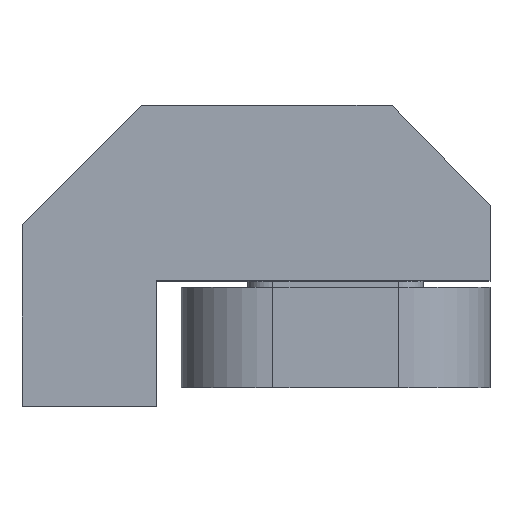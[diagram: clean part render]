
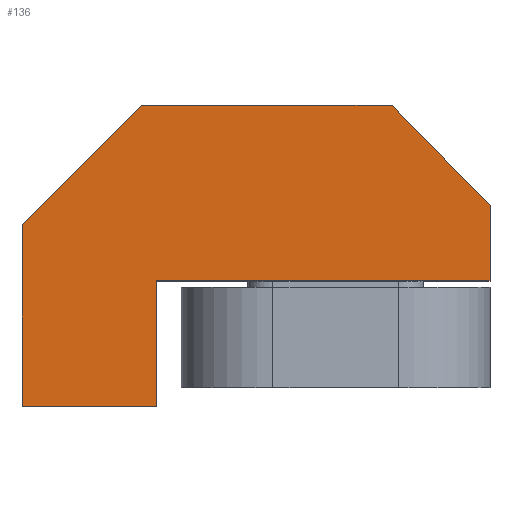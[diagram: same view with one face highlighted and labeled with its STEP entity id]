
A CAD part, top view. The second image highlights one B-rep face of the part: STEP entity #136.
In plain terms, the highlighted planar face has unit normal (0, 0, 1).
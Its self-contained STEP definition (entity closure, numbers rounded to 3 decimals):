
#136=ADVANCED_FACE('',(#223),#224,.T.);
#223=FACE_OUTER_BOUND('',#311,.T.);
#224=PLANE('',#312);
#311=EDGE_LOOP('',(#605,#606,#607,#608,#609,#610,#611,#612));
#312=AXIS2_PLACEMENT_3D('',#613,#614,#615);
#605=ORIENTED_EDGE('',*,*,#693,.F.);
#606=ORIENTED_EDGE('',*,*,#715,.F.);
#607=ORIENTED_EDGE('',*,*,#712,.F.);
#608=ORIENTED_EDGE('',*,*,#709,.F.);
#609=ORIENTED_EDGE('',*,*,#706,.F.);
#610=ORIENTED_EDGE('',*,*,#703,.F.);
#611=ORIENTED_EDGE('',*,*,#700,.F.);
#612=ORIENTED_EDGE('',*,*,#697,.F.);
#613=CARTESIAN_POINT('',(-85.115,129.992,93.0));
#614=DIRECTION('',(0.0,0.0,1.0));
#615=DIRECTION('',(1.0,0.0,0.0));
#693=EDGE_CURVE('',#827,#828,#829,.T.);
#697=EDGE_CURVE('',#828,#835,#836,.T.);
#700=EDGE_CURVE('',#835,#840,#841,.T.);
#703=EDGE_CURVE('',#840,#845,#846,.T.);
#706=EDGE_CURVE('',#845,#850,#851,.T.);
#709=EDGE_CURVE('',#850,#855,#856,.T.);
#712=EDGE_CURVE('',#855,#860,#861,.T.);
#715=EDGE_CURVE('',#860,#827,#865,.T.);
#827=VERTEX_POINT('',#1031);
#828=VERTEX_POINT('',#1032);
#829=LINE('',#1033,#1034);
#835=VERTEX_POINT('',#1043);
#836=LINE('',#1044,#1045);
#840=VERTEX_POINT('',#1051);
#841=LINE('',#1052,#1053);
#845=VERTEX_POINT('',#1059);
#846=LINE('',#1060,#1061);
#850=VERTEX_POINT('',#1067);
#851=LINE('',#1068,#1069);
#855=VERTEX_POINT('',#1075);
#856=LINE('',#1076,#1077);
#860=VERTEX_POINT('',#1083);
#861=LINE('',#1084,#1085);
#865=LINE('',#1091,#1092);
#1031=CARTESIAN_POINT('',(-250.0,145.0,93.0));
#1032=CARTESIAN_POINT('',(-155.0,240.0,93.0));
#1033=CARTESIAN_POINT('',(-250.0,145.0,93.0));
#1034=VECTOR('',#1185,1.0);
#1043=CARTESIAN_POINT('',(45.0,240.0,93.0));
#1044=CARTESIAN_POINT('',(-155.0,240.0,93.0));
#1045=VECTOR('',#1189,1.0);
#1051=CARTESIAN_POINT('',(123.0,160.0,93.0));
#1052=CARTESIAN_POINT('',(45.0,240.0,93.0));
#1053=VECTOR('',#1192,1.0);
#1059=CARTESIAN_POINT('',(123.0,100.0,93.0));
#1060=CARTESIAN_POINT('',(123.0,160.0,93.0));
#1061=VECTOR('',#1195,1.0);
#1067=CARTESIAN_POINT('',(-143.0,100.0,93.0));
#1068=CARTESIAN_POINT('',(123.0,100.0,93.0));
#1069=VECTOR('',#1198,1.0);
#1075=CARTESIAN_POINT('',(-143.0,0.0,93.0));
#1076=CARTESIAN_POINT('',(-143.0,100.0,93.0));
#1077=VECTOR('',#1201,1.0);
#1083=CARTESIAN_POINT('',(-250.0,0.0,93.0));
#1084=CARTESIAN_POINT('',(-143.0,0.0,93.0));
#1085=VECTOR('',#1204,1.0);
#1091=CARTESIAN_POINT('',(-250.0,0.0,93.0));
#1092=VECTOR('',#1207,1.0);
#1185=DIRECTION('',(0.707,0.707,0.0));
#1189=DIRECTION('',(1.0,0.0,0.0));
#1192=DIRECTION('',(0.698,-0.716,0.0));
#1195=DIRECTION('',(0.0,-1.0,0.0));
#1198=DIRECTION('',(-1.0,0.0,0.0));
#1201=DIRECTION('',(0.0,-1.0,0.0));
#1204=DIRECTION('',(-1.0,0.0,0.0));
#1207=DIRECTION('',(0.0,1.0,0.0));
